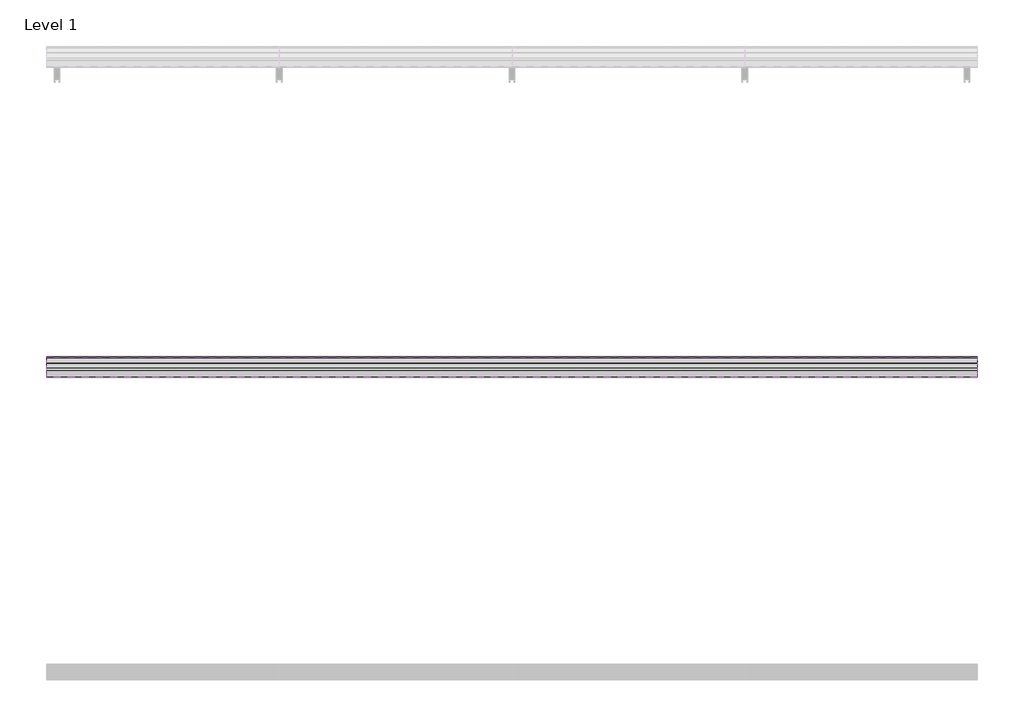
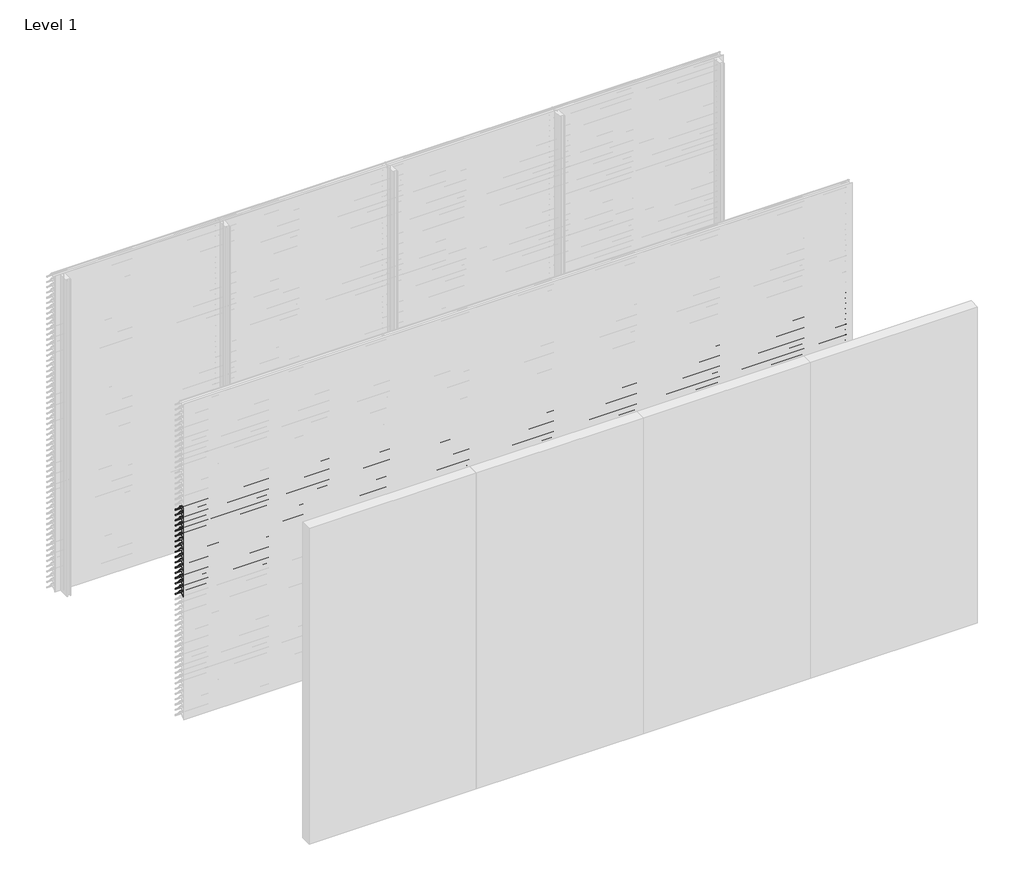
# One storey, part 107 of 173: 17 proxies.
"""IFC4 building model written with IfcOpenShell, lengths in millimetres."""

from ifc_helpers import new_model, si_unit, point, frame, frame_2d, origin, place, context, project, spatial, polyline, circle_curve, trimmed, segment, composite_curve, outline, extrude, element, save

model = new_model("IFC4")

# Units and contexts
model_context = context("Model", 3, world=origin())
ifc_project = project(units=[si_unit("LENGTHUNIT", "METRE", prefix="MILLI")], contexts=[model_context])

# Site, building, storey
site = spatial("IfcSite", under=ifc_project)
building = spatial("IfcBuilding", under=site)
storey = spatial("IfcBuildingStorey", under=building, Name="Level 1", Elevation=0.0)

# Proxies
placement = place(None, origin())
element("IfcBuildingElementProxy", 1, Name="Wall Sweeps", at=placement, inside=storey, context=model_context, shape_type="SweptSolid", body=[
    extrude(outline(composite_curve([segment(polyline([(-19998.0, 1959.1474905), (-19998.0, 1961.6227417)]), True, "CONTINUOUS"), segment(trimmed(circle_curve(frame_2d((-19951.2682172, 1916.2200208)), 65.1557103), [point((-19998.0, 1961.6227417))], [point((-19954.4014323, 1981.3003524))], False, "CARTESIAN"), True, "CONTINUOUS"), segment(polyline([(-19954.4014323, 1981.3003524), (-19934.8315836, 1981.3003524)]), True, "CONTINUOUS"), segment(trimmed(circle_curve(frame_2d((-19732.7329489, 2128.5533172)), 250.0545817), [point((-19934.8315836, 1981.3003524))], [point((-19941.4452143, 1990.8344583))], False, "CARTESIAN"), True, "CONTINUOUS"), segment(trimmed(circle_curve(frame_2d((-19953.2981792, 1985.1737835)), 13.1352966), [point((-19941.4452143, 1990.8344583))], [point((-19953.8171475, 1998.298824))], True, "CARTESIAN"), True, "CONTINUOUS"), segment(polyline([(-19953.8171475, 1998.298824), (-19953.8171475, 2000.0)]), True, "CONTINUOUS"), segment(trimmed(circle_curve(frame_2d((-19953.2981792, 1985.1737835)), 14.8352966), [point((-19953.8171475, 2000.0))], [point((-19939.9637661, 1991.6760487))], False, "CARTESIAN"), True, "CONTINUOUS"), segment(trimmed(circle_curve(frame_2d((-19732.7329489, 2128.5533172)), 248.3545817), [point((-19939.9637661, 1991.6760487))], [point((-19873.8787895, 1924.2059416))], True, "CARTESIAN"), True, "CONTINUOUS"), segment(trimmed(circle_curve(frame_2d((-19883.8147537, 1911.6649442)), 16.0), [point((-19873.8787895, 1924.2059416))], [point((-19867.8648347, 1910.4))], False, "CARTESIAN"), True, "CONTINUOUS"), segment(polyline([(-19867.8648347, 1910.4), (-19869.6712069, 1910.4)]), True, "CONTINUOUS"), segment(trimmed(circle_curve(frame_2d((-19883.8147537, 1911.6649442)), 14.2), [point((-19869.6712069, 1910.4))], [point((-19874.9518628, 1922.7594998))], True, "CARTESIAN"), True, "CONTINUOUS"), segment(trimmed(circle_curve(frame_2d((-19732.7329489, 2128.5533172)), 250.1545817), [point((-19874.9518628, 1922.7594998))], [point((-19933.7064024, 1979.6003524))], False, "CARTESIAN"), True, "CONTINUOUS"), segment(polyline([(-19933.7064024, 1979.6003524), (-19954.3602632, 1979.6003524)]), True, "CONTINUOUS"), segment(trimmed(circle_curve(frame_2d((-19951.2682172, 1916.2200208)), 63.4557103), [point((-19954.3602632, 1979.6003524))], [point((-19998.0, 1959.1474905))], True, "CARTESIAN"), True, "CONTINUOUS")], self_intersect=False)), frame((0.0, 0.0, 0.0), z_axis=(1.0, 0.0, 0.0), x_axis=(0.0, 1.0, 0.0)), (0.0, 0.0, 1.0), 6000.0),
])
element("IfcBuildingElementProxy", 2, Name="Wall Sweeps", at=placement, inside=storey, context=model_context, shape_type="SweptSolid", body=[
    extrude(outline(composite_curve([segment(polyline([(-19998.0, 1909.1474905), (-19998.0, 1911.6227417)]), True, "CONTINUOUS"), segment(trimmed(circle_curve(frame_2d((-19951.2682172, 1866.2200208)), 65.1557103), [point((-19998.0, 1911.6227417))], [point((-19954.4014323, 1931.3003524))], False, "CARTESIAN"), True, "CONTINUOUS"), segment(polyline([(-19954.4014323, 1931.3003524), (-19934.8315836, 1931.3003524)]), True, "CONTINUOUS"), segment(trimmed(circle_curve(frame_2d((-19732.7329489, 2078.5533172)), 250.0545817), [point((-19934.8315836, 1931.3003524))], [point((-19941.4452143, 1940.8344583))], False, "CARTESIAN"), True, "CONTINUOUS"), segment(trimmed(circle_curve(frame_2d((-19953.2981792, 1935.1737835)), 13.1352966), [point((-19941.4452143, 1940.8344583))], [point((-19953.8171475, 1948.298824))], True, "CARTESIAN"), True, "CONTINUOUS"), segment(polyline([(-19953.8171475, 1948.298824), (-19953.8171475, 1950.0)]), True, "CONTINUOUS"), segment(trimmed(circle_curve(frame_2d((-19953.2981792, 1935.1737835)), 14.8352966), [point((-19953.8171475, 1950.0))], [point((-19939.9637661, 1941.6760487))], False, "CARTESIAN"), True, "CONTINUOUS"), segment(trimmed(circle_curve(frame_2d((-19732.7329489, 2078.5533172)), 248.3545817), [point((-19939.9637661, 1941.6760487))], [point((-19873.8787895, 1874.2059416))], True, "CARTESIAN"), True, "CONTINUOUS"), segment(trimmed(circle_curve(frame_2d((-19883.8147537, 1861.6649442)), 16.0), [point((-19873.8787895, 1874.2059416))], [point((-19867.8648347, 1860.4))], False, "CARTESIAN"), True, "CONTINUOUS"), segment(polyline([(-19867.8648347, 1860.4), (-19869.6712069, 1860.4)]), True, "CONTINUOUS"), segment(trimmed(circle_curve(frame_2d((-19883.8147537, 1861.6649442)), 14.2), [point((-19869.6712069, 1860.4))], [point((-19874.9518628, 1872.7594998))], True, "CARTESIAN"), True, "CONTINUOUS"), segment(trimmed(circle_curve(frame_2d((-19732.7329489, 2078.5533172)), 250.1545817), [point((-19874.9518628, 1872.7594998))], [point((-19933.7064024, 1929.6003524))], False, "CARTESIAN"), True, "CONTINUOUS"), segment(polyline([(-19933.7064024, 1929.6003524), (-19954.3602632, 1929.6003524)]), True, "CONTINUOUS"), segment(trimmed(circle_curve(frame_2d((-19951.2682172, 1866.2200208)), 63.4557103), [point((-19954.3602632, 1929.6003524))], [point((-19998.0, 1909.1474905))], True, "CARTESIAN"), True, "CONTINUOUS")], self_intersect=False)), frame((0.0, 0.0, 0.0), z_axis=(1.0, 0.0, 0.0), x_axis=(0.0, 1.0, 0.0)), (0.0, 0.0, 1.0), 6000.0),
])
element("IfcBuildingElementProxy", 3, Name="Wall Sweeps", at=placement, inside=storey, context=model_context, shape_type="SweptSolid", body=[
    extrude(outline(composite_curve([segment(polyline([(-19998.0, 1859.1474905), (-19998.0, 1861.6227417)]), True, "CONTINUOUS"), segment(trimmed(circle_curve(frame_2d((-19951.2682172, 1816.2200208)), 65.1557103), [point((-19998.0, 1861.6227417))], [point((-19954.4014323, 1881.3003524))], False, "CARTESIAN"), True, "CONTINUOUS"), segment(polyline([(-19954.4014323, 1881.3003524), (-19934.8315836, 1881.3003524)]), True, "CONTINUOUS"), segment(trimmed(circle_curve(frame_2d((-19732.7329489, 2028.5533172)), 250.0545817), [point((-19934.8315836, 1881.3003524))], [point((-19941.4452143, 1890.8344583))], False, "CARTESIAN"), True, "CONTINUOUS"), segment(trimmed(circle_curve(frame_2d((-19953.2981792, 1885.1737835)), 13.1352966), [point((-19941.4452143, 1890.8344583))], [point((-19953.8171475, 1898.298824))], True, "CARTESIAN"), True, "CONTINUOUS"), segment(polyline([(-19953.8171475, 1898.298824), (-19953.8171475, 1900.0)]), True, "CONTINUOUS"), segment(trimmed(circle_curve(frame_2d((-19953.2981792, 1885.1737835)), 14.8352966), [point((-19953.8171475, 1900.0))], [point((-19939.9637661, 1891.6760487))], False, "CARTESIAN"), True, "CONTINUOUS"), segment(trimmed(circle_curve(frame_2d((-19732.7329489, 2028.5533172)), 248.3545817), [point((-19939.9637661, 1891.6760487))], [point((-19873.8787895, 1824.2059416))], True, "CARTESIAN"), True, "CONTINUOUS"), segment(trimmed(circle_curve(frame_2d((-19883.8147537, 1811.6649442)), 16.0), [point((-19873.8787895, 1824.2059416))], [point((-19867.8648347, 1810.4))], False, "CARTESIAN"), True, "CONTINUOUS"), segment(polyline([(-19867.8648347, 1810.4), (-19869.6712069, 1810.4)]), True, "CONTINUOUS"), segment(trimmed(circle_curve(frame_2d((-19883.8147537, 1811.6649442)), 14.2), [point((-19869.6712069, 1810.4))], [point((-19874.9518628, 1822.7594998))], True, "CARTESIAN"), True, "CONTINUOUS"), segment(trimmed(circle_curve(frame_2d((-19732.7329489, 2028.5533172)), 250.1545817), [point((-19874.9518628, 1822.7594998))], [point((-19933.7064024, 1879.6003524))], False, "CARTESIAN"), True, "CONTINUOUS"), segment(polyline([(-19933.7064024, 1879.6003524), (-19954.3602632, 1879.6003524)]), True, "CONTINUOUS"), segment(trimmed(circle_curve(frame_2d((-19951.2682172, 1816.2200208)), 63.4557103), [point((-19954.3602632, 1879.6003524))], [point((-19998.0, 1859.1474905))], True, "CARTESIAN"), True, "CONTINUOUS")], self_intersect=False)), frame((0.0, 0.0, 0.0), z_axis=(1.0, 0.0, 0.0), x_axis=(0.0, 1.0, 0.0)), (0.0, 0.0, 1.0), 6000.0),
])
element("IfcBuildingElementProxy", 4, Name="Wall Sweeps", at=placement, inside=storey, context=model_context, shape_type="SweptSolid", body=[
    extrude(outline(composite_curve([segment(polyline([(-19998.0, 1809.1474905), (-19998.0, 1811.6227417)]), True, "CONTINUOUS"), segment(trimmed(circle_curve(frame_2d((-19951.2682172, 1766.2200208)), 65.1557103), [point((-19998.0, 1811.6227417))], [point((-19954.4014323, 1831.3003524))], False, "CARTESIAN"), True, "CONTINUOUS"), segment(polyline([(-19954.4014323, 1831.3003524), (-19934.8315836, 1831.3003524)]), True, "CONTINUOUS"), segment(trimmed(circle_curve(frame_2d((-19732.7329489, 1978.5533172)), 250.0545817), [point((-19934.8315836, 1831.3003524))], [point((-19941.4452143, 1840.8344583))], False, "CARTESIAN"), True, "CONTINUOUS"), segment(trimmed(circle_curve(frame_2d((-19953.2981792, 1835.1737835)), 13.1352966), [point((-19941.4452143, 1840.8344583))], [point((-19953.8171475, 1848.298824))], True, "CARTESIAN"), True, "CONTINUOUS"), segment(polyline([(-19953.8171475, 1848.298824), (-19953.8171475, 1850.0)]), True, "CONTINUOUS"), segment(trimmed(circle_curve(frame_2d((-19953.2981792, 1835.1737835)), 14.8352966), [point((-19953.8171475, 1850.0))], [point((-19939.9637661, 1841.6760487))], False, "CARTESIAN"), True, "CONTINUOUS"), segment(trimmed(circle_curve(frame_2d((-19732.7329489, 1978.5533172)), 248.3545817), [point((-19939.9637661, 1841.6760487))], [point((-19873.8787895, 1774.2059416))], True, "CARTESIAN"), True, "CONTINUOUS"), segment(trimmed(circle_curve(frame_2d((-19883.8147537, 1761.6649442)), 16.0), [point((-19873.8787895, 1774.2059416))], [point((-19867.8648347, 1760.4))], False, "CARTESIAN"), True, "CONTINUOUS"), segment(polyline([(-19867.8648347, 1760.4), (-19869.6712069, 1760.4)]), True, "CONTINUOUS"), segment(trimmed(circle_curve(frame_2d((-19883.8147537, 1761.6649442)), 14.2), [point((-19869.6712069, 1760.4))], [point((-19874.9518628, 1772.7594998))], True, "CARTESIAN"), True, "CONTINUOUS"), segment(trimmed(circle_curve(frame_2d((-19732.7329489, 1978.5533172)), 250.1545817), [point((-19874.9518628, 1772.7594998))], [point((-19933.7064024, 1829.6003524))], False, "CARTESIAN"), True, "CONTINUOUS"), segment(polyline([(-19933.7064024, 1829.6003524), (-19954.3602632, 1829.6003524)]), True, "CONTINUOUS"), segment(trimmed(circle_curve(frame_2d((-19951.2682172, 1766.2200208)), 63.4557103), [point((-19954.3602632, 1829.6003524))], [point((-19998.0, 1809.1474905))], True, "CARTESIAN"), True, "CONTINUOUS")], self_intersect=False)), frame((0.0, 0.0, 0.0), z_axis=(1.0, 0.0, 0.0), x_axis=(0.0, 1.0, 0.0)), (0.0, 0.0, 1.0), 6000.0),
])
element("IfcBuildingElementProxy", 5, Name="Wall Sweeps", at=placement, inside=storey, context=model_context, shape_type="SweptSolid", body=[
    extrude(outline(composite_curve([segment(polyline([(-19998.0, 1759.1474905), (-19998.0, 1761.6227417)]), True, "CONTINUOUS"), segment(trimmed(circle_curve(frame_2d((-19951.2682172, 1716.2200208)), 65.1557103), [point((-19998.0, 1761.6227417))], [point((-19954.4014323, 1781.3003524))], False, "CARTESIAN"), True, "CONTINUOUS"), segment(polyline([(-19954.4014323, 1781.3003524), (-19934.8315836, 1781.3003524)]), True, "CONTINUOUS"), segment(trimmed(circle_curve(frame_2d((-19732.7329489, 1928.5533172)), 250.0545817), [point((-19934.8315836, 1781.3003524))], [point((-19941.4452143, 1790.8344583))], False, "CARTESIAN"), True, "CONTINUOUS"), segment(trimmed(circle_curve(frame_2d((-19953.2981792, 1785.1737835)), 13.1352966), [point((-19941.4452143, 1790.8344583))], [point((-19953.8171475, 1798.298824))], True, "CARTESIAN"), True, "CONTINUOUS"), segment(polyline([(-19953.8171475, 1798.298824), (-19953.8171475, 1800.0)]), True, "CONTINUOUS"), segment(trimmed(circle_curve(frame_2d((-19953.2981792, 1785.1737835)), 14.8352966), [point((-19953.8171475, 1800.0))], [point((-19939.9637661, 1791.6760487))], False, "CARTESIAN"), True, "CONTINUOUS"), segment(trimmed(circle_curve(frame_2d((-19732.7329489, 1928.5533172)), 248.3545817), [point((-19939.9637661, 1791.6760487))], [point((-19873.8787895, 1724.2059416))], True, "CARTESIAN"), True, "CONTINUOUS"), segment(trimmed(circle_curve(frame_2d((-19883.8147537, 1711.6649442)), 16.0), [point((-19873.8787895, 1724.2059416))], [point((-19867.8648347, 1710.4))], False, "CARTESIAN"), True, "CONTINUOUS"), segment(polyline([(-19867.8648347, 1710.4), (-19869.6712069, 1710.4)]), True, "CONTINUOUS"), segment(trimmed(circle_curve(frame_2d((-19883.8147537, 1711.6649442)), 14.2), [point((-19869.6712069, 1710.4))], [point((-19874.9518628, 1722.7594998))], True, "CARTESIAN"), True, "CONTINUOUS"), segment(trimmed(circle_curve(frame_2d((-19732.7329489, 1928.5533172)), 250.1545817), [point((-19874.9518628, 1722.7594998))], [point((-19933.7064024, 1779.6003524))], False, "CARTESIAN"), True, "CONTINUOUS"), segment(polyline([(-19933.7064024, 1779.6003524), (-19954.3602632, 1779.6003524)]), True, "CONTINUOUS"), segment(trimmed(circle_curve(frame_2d((-19951.2682172, 1716.2200208)), 63.4557103), [point((-19954.3602632, 1779.6003524))], [point((-19998.0, 1759.1474905))], True, "CARTESIAN"), True, "CONTINUOUS")], self_intersect=False)), frame((0.0, 0.0, 0.0), z_axis=(1.0, 0.0, 0.0), x_axis=(0.0, 1.0, 0.0)), (0.0, 0.0, 1.0), 6000.0),
])
element("IfcBuildingElementProxy", 6, Name="Wall Sweeps", at=placement, inside=storey, context=model_context, shape_type="SweptSolid", body=[
    extrude(outline(composite_curve([segment(polyline([(-19998.0, 1709.1474905), (-19998.0, 1711.6227417)]), True, "CONTINUOUS"), segment(trimmed(circle_curve(frame_2d((-19951.2682172, 1666.2200208)), 65.1557103), [point((-19998.0, 1711.6227417))], [point((-19954.4014323, 1731.3003524))], False, "CARTESIAN"), True, "CONTINUOUS"), segment(polyline([(-19954.4014323, 1731.3003524), (-19934.8315836, 1731.3003524)]), True, "CONTINUOUS"), segment(trimmed(circle_curve(frame_2d((-19732.7329489, 1878.5533172)), 250.0545817), [point((-19934.8315836, 1731.3003524))], [point((-19941.4452143, 1740.8344583))], False, "CARTESIAN"), True, "CONTINUOUS"), segment(trimmed(circle_curve(frame_2d((-19953.2981792, 1735.1737835)), 13.1352966), [point((-19941.4452143, 1740.8344583))], [point((-19953.8171475, 1748.298824))], True, "CARTESIAN"), True, "CONTINUOUS"), segment(polyline([(-19953.8171475, 1748.298824), (-19953.8171475, 1750.0)]), True, "CONTINUOUS"), segment(trimmed(circle_curve(frame_2d((-19953.2981792, 1735.1737835)), 14.8352966), [point((-19953.8171475, 1750.0))], [point((-19939.9637661, 1741.6760487))], False, "CARTESIAN"), True, "CONTINUOUS"), segment(trimmed(circle_curve(frame_2d((-19732.7329489, 1878.5533172)), 248.3545817), [point((-19939.9637661, 1741.6760487))], [point((-19873.8787895, 1674.2059416))], True, "CARTESIAN"), True, "CONTINUOUS"), segment(trimmed(circle_curve(frame_2d((-19883.8147537, 1661.6649442)), 16.0), [point((-19873.8787895, 1674.2059416))], [point((-19867.8648347, 1660.4))], False, "CARTESIAN"), True, "CONTINUOUS"), segment(polyline([(-19867.8648347, 1660.4), (-19869.6712069, 1660.4)]), True, "CONTINUOUS"), segment(trimmed(circle_curve(frame_2d((-19883.8147537, 1661.6649442)), 14.2), [point((-19869.6712069, 1660.4))], [point((-19874.9518628, 1672.7594998))], True, "CARTESIAN"), True, "CONTINUOUS"), segment(trimmed(circle_curve(frame_2d((-19732.7329489, 1878.5533172)), 250.1545817), [point((-19874.9518628, 1672.7594998))], [point((-19933.7064024, 1729.6003524))], False, "CARTESIAN"), True, "CONTINUOUS"), segment(polyline([(-19933.7064024, 1729.6003524), (-19954.3602632, 1729.6003524)]), True, "CONTINUOUS"), segment(trimmed(circle_curve(frame_2d((-19951.2682172, 1666.2200208)), 63.4557103), [point((-19954.3602632, 1729.6003524))], [point((-19998.0, 1709.1474905))], True, "CARTESIAN"), True, "CONTINUOUS")], self_intersect=False)), frame((0.0, 0.0, 0.0), z_axis=(1.0, 0.0, 0.0), x_axis=(0.0, 1.0, 0.0)), (0.0, 0.0, 1.0), 6000.0),
])
element("IfcBuildingElementProxy", 7, Name="Wall Sweeps", at=placement, inside=storey, context=model_context, shape_type="SweptSolid", body=[
    extrude(outline(composite_curve([segment(polyline([(-19998.0, 1659.1474905), (-19998.0, 1661.6227417)]), True, "CONTINUOUS"), segment(trimmed(circle_curve(frame_2d((-19951.2682172, 1616.2200208)), 65.1557103), [point((-19998.0, 1661.6227417))], [point((-19954.4014323, 1681.3003524))], False, "CARTESIAN"), True, "CONTINUOUS"), segment(polyline([(-19954.4014323, 1681.3003524), (-19934.8315836, 1681.3003524)]), True, "CONTINUOUS"), segment(trimmed(circle_curve(frame_2d((-19732.7329489, 1828.5533172)), 250.0545817), [point((-19934.8315836, 1681.3003524))], [point((-19941.4452143, 1690.8344583))], False, "CARTESIAN"), True, "CONTINUOUS"), segment(trimmed(circle_curve(frame_2d((-19953.2981792, 1685.1737835)), 13.1352966), [point((-19941.4452143, 1690.8344583))], [point((-19953.8171475, 1698.298824))], True, "CARTESIAN"), True, "CONTINUOUS"), segment(polyline([(-19953.8171475, 1698.298824), (-19953.8171475, 1700.0)]), True, "CONTINUOUS"), segment(trimmed(circle_curve(frame_2d((-19953.2981792, 1685.1737835)), 14.8352966), [point((-19953.8171475, 1700.0))], [point((-19939.9637661, 1691.6760487))], False, "CARTESIAN"), True, "CONTINUOUS"), segment(trimmed(circle_curve(frame_2d((-19732.7329489, 1828.5533172)), 248.3545817), [point((-19939.9637661, 1691.6760487))], [point((-19873.8787895, 1624.2059416))], True, "CARTESIAN"), True, "CONTINUOUS"), segment(trimmed(circle_curve(frame_2d((-19883.8147537, 1611.6649442)), 16.0), [point((-19873.8787895, 1624.2059416))], [point((-19867.8648347, 1610.4))], False, "CARTESIAN"), True, "CONTINUOUS"), segment(polyline([(-19867.8648347, 1610.4), (-19869.6712069, 1610.4)]), True, "CONTINUOUS"), segment(trimmed(circle_curve(frame_2d((-19883.8147537, 1611.6649442)), 14.2), [point((-19869.6712069, 1610.4))], [point((-19874.9518628, 1622.7594998))], True, "CARTESIAN"), True, "CONTINUOUS"), segment(trimmed(circle_curve(frame_2d((-19732.7329489, 1828.5533172)), 250.1545817), [point((-19874.9518628, 1622.7594998))], [point((-19933.7064024, 1679.6003524))], False, "CARTESIAN"), True, "CONTINUOUS"), segment(polyline([(-19933.7064024, 1679.6003524), (-19954.3602632, 1679.6003524)]), True, "CONTINUOUS"), segment(trimmed(circle_curve(frame_2d((-19951.2682172, 1616.2200208)), 63.4557103), [point((-19954.3602632, 1679.6003524))], [point((-19998.0, 1659.1474905))], True, "CARTESIAN"), True, "CONTINUOUS")], self_intersect=False)), frame((0.0, 0.0, 0.0), z_axis=(1.0, 0.0, 0.0), x_axis=(0.0, 1.0, 0.0)), (0.0, 0.0, 1.0), 6000.0),
])
element("IfcBuildingElementProxy", 8, Name="Wall Sweeps", at=placement, inside=storey, context=model_context, shape_type="SweptSolid", body=[
    extrude(outline(composite_curve([segment(polyline([(-19998.0, 1609.1474905), (-19998.0, 1611.6227417)]), True, "CONTINUOUS"), segment(trimmed(circle_curve(frame_2d((-19951.2682172, 1566.2200208)), 65.1557103), [point((-19998.0, 1611.6227417))], [point((-19954.4014323, 1631.3003524))], False, "CARTESIAN"), True, "CONTINUOUS"), segment(polyline([(-19954.4014323, 1631.3003524), (-19934.8315836, 1631.3003524)]), True, "CONTINUOUS"), segment(trimmed(circle_curve(frame_2d((-19732.7329489, 1778.5533172)), 250.0545817), [point((-19934.8315836, 1631.3003524))], [point((-19941.4452143, 1640.8344583))], False, "CARTESIAN"), True, "CONTINUOUS"), segment(trimmed(circle_curve(frame_2d((-19953.2981792, 1635.1737835)), 13.1352966), [point((-19941.4452143, 1640.8344583))], [point((-19953.8171475, 1648.298824))], True, "CARTESIAN"), True, "CONTINUOUS"), segment(polyline([(-19953.8171475, 1648.298824), (-19953.8171475, 1650.0)]), True, "CONTINUOUS"), segment(trimmed(circle_curve(frame_2d((-19953.2981792, 1635.1737835)), 14.8352966), [point((-19953.8171475, 1650.0))], [point((-19939.9637661, 1641.6760487))], False, "CARTESIAN"), True, "CONTINUOUS"), segment(trimmed(circle_curve(frame_2d((-19732.7329489, 1778.5533172)), 248.3545817), [point((-19939.9637661, 1641.6760487))], [point((-19873.8787895, 1574.2059416))], True, "CARTESIAN"), True, "CONTINUOUS"), segment(trimmed(circle_curve(frame_2d((-19883.8147537, 1561.6649442)), 16.0), [point((-19873.8787895, 1574.2059416))], [point((-19867.8648347, 1560.4))], False, "CARTESIAN"), True, "CONTINUOUS"), segment(polyline([(-19867.8648347, 1560.4), (-19869.6712069, 1560.4)]), True, "CONTINUOUS"), segment(trimmed(circle_curve(frame_2d((-19883.8147537, 1561.6649442)), 14.2), [point((-19869.6712069, 1560.4))], [point((-19874.9518628, 1572.7594998))], True, "CARTESIAN"), True, "CONTINUOUS"), segment(trimmed(circle_curve(frame_2d((-19732.7329489, 1778.5533172)), 250.1545817), [point((-19874.9518628, 1572.7594998))], [point((-19933.7064024, 1629.6003524))], False, "CARTESIAN"), True, "CONTINUOUS"), segment(polyline([(-19933.7064024, 1629.6003524), (-19954.3602632, 1629.6003524)]), True, "CONTINUOUS"), segment(trimmed(circle_curve(frame_2d((-19951.2682172, 1566.2200208)), 63.4557103), [point((-19954.3602632, 1629.6003524))], [point((-19998.0, 1609.1474905))], True, "CARTESIAN"), True, "CONTINUOUS")], self_intersect=False)), frame((0.0, 0.0, 0.0), z_axis=(1.0, 0.0, 0.0), x_axis=(0.0, 1.0, 0.0)), (0.0, 0.0, 1.0), 6000.0),
])
element("IfcBuildingElementProxy", 9, Name="Wall Sweeps", at=placement, inside=storey, context=model_context, shape_type="SweptSolid", body=[
    extrude(outline(composite_curve([segment(polyline([(-19998.0, 1559.1474905), (-19998.0, 1561.6227417)]), True, "CONTINUOUS"), segment(trimmed(circle_curve(frame_2d((-19951.2682172, 1516.2200208)), 65.1557103), [point((-19998.0, 1561.6227417))], [point((-19954.4014323, 1581.3003524))], False, "CARTESIAN"), True, "CONTINUOUS"), segment(polyline([(-19954.4014323, 1581.3003524), (-19934.8315836, 1581.3003524)]), True, "CONTINUOUS"), segment(trimmed(circle_curve(frame_2d((-19732.7329489, 1728.5533172)), 250.0545817), [point((-19934.8315836, 1581.3003524))], [point((-19941.4452143, 1590.8344583))], False, "CARTESIAN"), True, "CONTINUOUS"), segment(trimmed(circle_curve(frame_2d((-19953.2981792, 1585.1737835)), 13.1352966), [point((-19941.4452143, 1590.8344583))], [point((-19953.8171475, 1598.298824))], True, "CARTESIAN"), True, "CONTINUOUS"), segment(polyline([(-19953.8171475, 1598.298824), (-19953.8171475, 1600.0)]), True, "CONTINUOUS"), segment(trimmed(circle_curve(frame_2d((-19953.2981792, 1585.1737835)), 14.8352966), [point((-19953.8171475, 1600.0))], [point((-19939.9637661, 1591.6760487))], False, "CARTESIAN"), True, "CONTINUOUS"), segment(trimmed(circle_curve(frame_2d((-19732.7329489, 1728.5533172)), 248.3545817), [point((-19939.9637661, 1591.6760487))], [point((-19873.8787895, 1524.2059416))], True, "CARTESIAN"), True, "CONTINUOUS"), segment(trimmed(circle_curve(frame_2d((-19883.8147537, 1511.6649442)), 16.0), [point((-19873.8787895, 1524.2059416))], [point((-19867.8648347, 1510.4))], False, "CARTESIAN"), True, "CONTINUOUS"), segment(polyline([(-19867.8648347, 1510.4), (-19869.6712069, 1510.4)]), True, "CONTINUOUS"), segment(trimmed(circle_curve(frame_2d((-19883.8147537, 1511.6649442)), 14.2), [point((-19869.6712069, 1510.4))], [point((-19874.9518628, 1522.7594998))], True, "CARTESIAN"), True, "CONTINUOUS"), segment(trimmed(circle_curve(frame_2d((-19732.7329489, 1728.5533172)), 250.1545817), [point((-19874.9518628, 1522.7594998))], [point((-19933.7064024, 1579.6003524))], False, "CARTESIAN"), True, "CONTINUOUS"), segment(polyline([(-19933.7064024, 1579.6003524), (-19954.3602632, 1579.6003524)]), True, "CONTINUOUS"), segment(trimmed(circle_curve(frame_2d((-19951.2682172, 1516.2200208)), 63.4557103), [point((-19954.3602632, 1579.6003524))], [point((-19998.0, 1559.1474905))], True, "CARTESIAN"), True, "CONTINUOUS")], self_intersect=False)), frame((0.0, 0.0, 0.0), z_axis=(1.0, 0.0, 0.0), x_axis=(0.0, 1.0, 0.0)), (0.0, 0.0, 1.0), 6000.0),
])
element("IfcBuildingElementProxy", 10, Name="Wall Sweeps", at=placement, inside=storey, context=model_context, shape_type="SweptSolid", body=[
    extrude(outline(composite_curve([segment(polyline([(-19998.0, 1509.1474905), (-19998.0, 1511.6227417)]), True, "CONTINUOUS"), segment(trimmed(circle_curve(frame_2d((-19951.2682172, 1466.2200208)), 65.1557103), [point((-19998.0, 1511.6227417))], [point((-19954.4014323, 1531.3003524))], False, "CARTESIAN"), True, "CONTINUOUS"), segment(polyline([(-19954.4014323, 1531.3003524), (-19934.8315836, 1531.3003524)]), True, "CONTINUOUS"), segment(trimmed(circle_curve(frame_2d((-19732.7329489, 1678.5533172)), 250.0545817), [point((-19934.8315836, 1531.3003524))], [point((-19941.4452143, 1540.8344583))], False, "CARTESIAN"), True, "CONTINUOUS"), segment(trimmed(circle_curve(frame_2d((-19953.2981792, 1535.1737835)), 13.1352966), [point((-19941.4452143, 1540.8344583))], [point((-19953.8171475, 1548.298824))], True, "CARTESIAN"), True, "CONTINUOUS"), segment(polyline([(-19953.8171475, 1548.298824), (-19953.8171475, 1550.0)]), True, "CONTINUOUS"), segment(trimmed(circle_curve(frame_2d((-19953.2981792, 1535.1737835)), 14.8352966), [point((-19953.8171475, 1550.0))], [point((-19939.9637661, 1541.6760487))], False, "CARTESIAN"), True, "CONTINUOUS"), segment(trimmed(circle_curve(frame_2d((-19732.7329489, 1678.5533172)), 248.3545817), [point((-19939.9637661, 1541.6760487))], [point((-19873.8787895, 1474.2059416))], True, "CARTESIAN"), True, "CONTINUOUS"), segment(trimmed(circle_curve(frame_2d((-19883.8147537, 1461.6649442)), 16.0), [point((-19873.8787895, 1474.2059416))], [point((-19867.8648347, 1460.4))], False, "CARTESIAN"), True, "CONTINUOUS"), segment(polyline([(-19867.8648347, 1460.4), (-19869.6712069, 1460.4)]), True, "CONTINUOUS"), segment(trimmed(circle_curve(frame_2d((-19883.8147537, 1461.6649442)), 14.2), [point((-19869.6712069, 1460.4))], [point((-19874.9518628, 1472.7594998))], True, "CARTESIAN"), True, "CONTINUOUS"), segment(trimmed(circle_curve(frame_2d((-19732.7329489, 1678.5533172)), 250.1545817), [point((-19874.9518628, 1472.7594998))], [point((-19933.7064024, 1529.6003524))], False, "CARTESIAN"), True, "CONTINUOUS"), segment(polyline([(-19933.7064024, 1529.6003524), (-19954.3602632, 1529.6003524)]), True, "CONTINUOUS"), segment(trimmed(circle_curve(frame_2d((-19951.2682172, 1466.2200208)), 63.4557103), [point((-19954.3602632, 1529.6003524))], [point((-19998.0, 1509.1474905))], True, "CARTESIAN"), True, "CONTINUOUS")], self_intersect=False)), frame((0.0, 0.0, 0.0), z_axis=(1.0, 0.0, 0.0), x_axis=(0.0, 1.0, 0.0)), (0.0, 0.0, 1.0), 6000.0),
])
element("IfcBuildingElementProxy", 11, Name="Wall Sweeps", at=placement, inside=storey, context=model_context, shape_type="SweptSolid", body=[
    extrude(outline(composite_curve([segment(polyline([(-19998.0, 1459.1474905), (-19998.0, 1461.6227417)]), True, "CONTINUOUS"), segment(trimmed(circle_curve(frame_2d((-19951.2682172, 1416.2200208)), 65.1557103), [point((-19998.0, 1461.6227417))], [point((-19954.4014323, 1481.3003524))], False, "CARTESIAN"), True, "CONTINUOUS"), segment(polyline([(-19954.4014323, 1481.3003524), (-19934.8315836, 1481.3003524)]), True, "CONTINUOUS"), segment(trimmed(circle_curve(frame_2d((-19732.7329489, 1628.5533172)), 250.0545817), [point((-19934.8315836, 1481.3003524))], [point((-19941.4452143, 1490.8344583))], False, "CARTESIAN"), True, "CONTINUOUS"), segment(trimmed(circle_curve(frame_2d((-19953.2981792, 1485.1737835)), 13.1352966), [point((-19941.4452143, 1490.8344583))], [point((-19953.8171475, 1498.298824))], True, "CARTESIAN"), True, "CONTINUOUS"), segment(polyline([(-19953.8171475, 1498.298824), (-19953.8171475, 1500.0)]), True, "CONTINUOUS"), segment(trimmed(circle_curve(frame_2d((-19953.2981792, 1485.1737835)), 14.8352966), [point((-19953.8171475, 1500.0))], [point((-19939.9637661, 1491.6760487))], False, "CARTESIAN"), True, "CONTINUOUS"), segment(trimmed(circle_curve(frame_2d((-19732.7329489, 1628.5533172)), 248.3545817), [point((-19939.9637661, 1491.6760487))], [point((-19873.8787895, 1424.2059416))], True, "CARTESIAN"), True, "CONTINUOUS"), segment(trimmed(circle_curve(frame_2d((-19883.8147537, 1411.6649442)), 16.0), [point((-19873.8787895, 1424.2059416))], [point((-19867.8648347, 1410.4))], False, "CARTESIAN"), True, "CONTINUOUS"), segment(polyline([(-19867.8648347, 1410.4), (-19869.6712069, 1410.4)]), True, "CONTINUOUS"), segment(trimmed(circle_curve(frame_2d((-19883.8147537, 1411.6649442)), 14.2), [point((-19869.6712069, 1410.4))], [point((-19874.9518628, 1422.7594998))], True, "CARTESIAN"), True, "CONTINUOUS"), segment(trimmed(circle_curve(frame_2d((-19732.7329489, 1628.5533172)), 250.1545817), [point((-19874.9518628, 1422.7594998))], [point((-19933.7064024, 1479.6003524))], False, "CARTESIAN"), True, "CONTINUOUS"), segment(polyline([(-19933.7064024, 1479.6003524), (-19954.3602632, 1479.6003524)]), True, "CONTINUOUS"), segment(trimmed(circle_curve(frame_2d((-19951.2682172, 1416.2200208)), 63.4557103), [point((-19954.3602632, 1479.6003524))], [point((-19998.0, 1459.1474905))], True, "CARTESIAN"), True, "CONTINUOUS")], self_intersect=False)), frame((0.0, 0.0, 0.0), z_axis=(1.0, 0.0, 0.0), x_axis=(0.0, 1.0, 0.0)), (0.0, 0.0, 1.0), 6000.0),
])
element("IfcBuildingElementProxy", 12, Name="Wall Sweeps", at=placement, inside=storey, context=model_context, shape_type="SweptSolid", body=[
    extrude(outline(composite_curve([segment(polyline([(-19998.0, 1409.1474905), (-19998.0, 1411.6227417)]), True, "CONTINUOUS"), segment(trimmed(circle_curve(frame_2d((-19951.2682172, 1366.2200208)), 65.1557103), [point((-19998.0, 1411.6227417))], [point((-19954.4014323, 1431.3003524))], False, "CARTESIAN"), True, "CONTINUOUS"), segment(polyline([(-19954.4014323, 1431.3003524), (-19934.8315836, 1431.3003524)]), True, "CONTINUOUS"), segment(trimmed(circle_curve(frame_2d((-19732.7329489, 1578.5533172)), 250.0545817), [point((-19934.8315836, 1431.3003524))], [point((-19941.4452143, 1440.8344583))], False, "CARTESIAN"), True, "CONTINUOUS"), segment(trimmed(circle_curve(frame_2d((-19953.2981792, 1435.1737835)), 13.1352966), [point((-19941.4452143, 1440.8344583))], [point((-19953.8171475, 1448.298824))], True, "CARTESIAN"), True, "CONTINUOUS"), segment(polyline([(-19953.8171475, 1448.298824), (-19953.8171475, 1450.0)]), True, "CONTINUOUS"), segment(trimmed(circle_curve(frame_2d((-19953.2981792, 1435.1737835)), 14.8352966), [point((-19953.8171475, 1450.0))], [point((-19939.9637661, 1441.6760487))], False, "CARTESIAN"), True, "CONTINUOUS"), segment(trimmed(circle_curve(frame_2d((-19732.7329489, 1578.5533172)), 248.3545817), [point((-19939.9637661, 1441.6760487))], [point((-19873.8787895, 1374.2059416))], True, "CARTESIAN"), True, "CONTINUOUS"), segment(trimmed(circle_curve(frame_2d((-19883.8147537, 1361.6649442)), 16.0), [point((-19873.8787895, 1374.2059416))], [point((-19867.8648347, 1360.4))], False, "CARTESIAN"), True, "CONTINUOUS"), segment(polyline([(-19867.8648347, 1360.4), (-19869.6712069, 1360.4)]), True, "CONTINUOUS"), segment(trimmed(circle_curve(frame_2d((-19883.8147537, 1361.6649442)), 14.2), [point((-19869.6712069, 1360.4))], [point((-19874.9518628, 1372.7594998))], True, "CARTESIAN"), True, "CONTINUOUS"), segment(trimmed(circle_curve(frame_2d((-19732.7329489, 1578.5533172)), 250.1545817), [point((-19874.9518628, 1372.7594998))], [point((-19933.7064024, 1429.6003524))], False, "CARTESIAN"), True, "CONTINUOUS"), segment(polyline([(-19933.7064024, 1429.6003524), (-19954.3602632, 1429.6003524)]), True, "CONTINUOUS"), segment(trimmed(circle_curve(frame_2d((-19951.2682172, 1366.2200208)), 63.4557103), [point((-19954.3602632, 1429.6003524))], [point((-19998.0, 1409.1474905))], True, "CARTESIAN"), True, "CONTINUOUS")], self_intersect=False)), frame((0.0, 0.0, 0.0), z_axis=(1.0, 0.0, 0.0), x_axis=(0.0, 1.0, 0.0)), (0.0, 0.0, 1.0), 6000.0),
])
element("IfcBuildingElementProxy", 13, Name="Wall Sweeps", at=placement, inside=storey, context=model_context, shape_type="SweptSolid", body=[
    extrude(outline(composite_curve([segment(polyline([(-19998.0, 1359.1474905), (-19998.0, 1361.6227417)]), True, "CONTINUOUS"), segment(trimmed(circle_curve(frame_2d((-19951.2682172, 1316.2200208)), 65.1557103), [point((-19998.0, 1361.6227417))], [point((-19954.4014323, 1381.3003524))], False, "CARTESIAN"), True, "CONTINUOUS"), segment(polyline([(-19954.4014323, 1381.3003524), (-19934.8315836, 1381.3003524)]), True, "CONTINUOUS"), segment(trimmed(circle_curve(frame_2d((-19732.7329489, 1528.5533172)), 250.0545817), [point((-19934.8315836, 1381.3003524))], [point((-19941.4452143, 1390.8344583))], False, "CARTESIAN"), True, "CONTINUOUS"), segment(trimmed(circle_curve(frame_2d((-19953.2981792, 1385.1737835)), 13.1352966), [point((-19941.4452143, 1390.8344583))], [point((-19953.8171475, 1398.298824))], True, "CARTESIAN"), True, "CONTINUOUS"), segment(polyline([(-19953.8171475, 1398.298824), (-19953.8171475, 1400.0)]), True, "CONTINUOUS"), segment(trimmed(circle_curve(frame_2d((-19953.2981792, 1385.1737835)), 14.8352966), [point((-19953.8171475, 1400.0))], [point((-19939.9637661, 1391.6760487))], False, "CARTESIAN"), True, "CONTINUOUS"), segment(trimmed(circle_curve(frame_2d((-19732.7329489, 1528.5533172)), 248.3545817), [point((-19939.9637661, 1391.6760487))], [point((-19873.8787895, 1324.2059416))], True, "CARTESIAN"), True, "CONTINUOUS"), segment(trimmed(circle_curve(frame_2d((-19883.8147537, 1311.6649442)), 16.0), [point((-19873.8787895, 1324.2059416))], [point((-19867.8648347, 1310.4))], False, "CARTESIAN"), True, "CONTINUOUS"), segment(polyline([(-19867.8648347, 1310.4), (-19869.6712069, 1310.4)]), True, "CONTINUOUS"), segment(trimmed(circle_curve(frame_2d((-19883.8147537, 1311.6649442)), 14.2), [point((-19869.6712069, 1310.4))], [point((-19874.9518628, 1322.7594998))], True, "CARTESIAN"), True, "CONTINUOUS"), segment(trimmed(circle_curve(frame_2d((-19732.7329489, 1528.5533172)), 250.1545817), [point((-19874.9518628, 1322.7594998))], [point((-19933.7064024, 1379.6003524))], False, "CARTESIAN"), True, "CONTINUOUS"), segment(polyline([(-19933.7064024, 1379.6003524), (-19954.3602632, 1379.6003524)]), True, "CONTINUOUS"), segment(trimmed(circle_curve(frame_2d((-19951.2682172, 1316.2200208)), 63.4557103), [point((-19954.3602632, 1379.6003524))], [point((-19998.0, 1359.1474905))], True, "CARTESIAN"), True, "CONTINUOUS")], self_intersect=False)), frame((0.0, 0.0, 0.0), z_axis=(1.0, 0.0, 0.0), x_axis=(0.0, 1.0, 0.0)), (0.0, 0.0, 1.0), 6000.0),
])
element("IfcBuildingElementProxy", 14, Name="Wall Sweeps", at=placement, inside=storey, context=model_context, shape_type="SweptSolid", body=[
    extrude(outline(composite_curve([segment(polyline([(-19998.0, 1309.1474905), (-19998.0, 1311.6227417)]), True, "CONTINUOUS"), segment(trimmed(circle_curve(frame_2d((-19951.2682172, 1266.2200208)), 65.1557103), [point((-19998.0, 1311.6227417))], [point((-19954.4014323, 1331.3003524))], False, "CARTESIAN"), True, "CONTINUOUS"), segment(polyline([(-19954.4014323, 1331.3003524), (-19934.8315836, 1331.3003524)]), True, "CONTINUOUS"), segment(trimmed(circle_curve(frame_2d((-19732.7329489, 1478.5533172)), 250.0545817), [point((-19934.8315836, 1331.3003524))], [point((-19941.4452143, 1340.8344583))], False, "CARTESIAN"), True, "CONTINUOUS"), segment(trimmed(circle_curve(frame_2d((-19953.2981792, 1335.1737835)), 13.1352966), [point((-19941.4452143, 1340.8344583))], [point((-19953.8171475, 1348.298824))], True, "CARTESIAN"), True, "CONTINUOUS"), segment(polyline([(-19953.8171475, 1348.298824), (-19953.8171475, 1350.0)]), True, "CONTINUOUS"), segment(trimmed(circle_curve(frame_2d((-19953.2981792, 1335.1737835)), 14.8352966), [point((-19953.8171475, 1350.0))], [point((-19939.9637661, 1341.6760487))], False, "CARTESIAN"), True, "CONTINUOUS"), segment(trimmed(circle_curve(frame_2d((-19732.7329489, 1478.5533172)), 248.3545817), [point((-19939.9637661, 1341.6760487))], [point((-19873.8787895, 1274.2059416))], True, "CARTESIAN"), True, "CONTINUOUS"), segment(trimmed(circle_curve(frame_2d((-19883.8147537, 1261.6649442)), 16.0), [point((-19873.8787895, 1274.2059416))], [point((-19867.8648347, 1260.4))], False, "CARTESIAN"), True, "CONTINUOUS"), segment(polyline([(-19867.8648347, 1260.4), (-19869.6712069, 1260.4)]), True, "CONTINUOUS"), segment(trimmed(circle_curve(frame_2d((-19883.8147537, 1261.6649442)), 14.2), [point((-19869.6712069, 1260.4))], [point((-19874.9518628, 1272.7594998))], True, "CARTESIAN"), True, "CONTINUOUS"), segment(trimmed(circle_curve(frame_2d((-19732.7329489, 1478.5533172)), 250.1545817), [point((-19874.9518628, 1272.7594998))], [point((-19933.7064024, 1329.6003524))], False, "CARTESIAN"), True, "CONTINUOUS"), segment(polyline([(-19933.7064024, 1329.6003524), (-19954.3602632, 1329.6003524)]), True, "CONTINUOUS"), segment(trimmed(circle_curve(frame_2d((-19951.2682172, 1266.2200208)), 63.4557103), [point((-19954.3602632, 1329.6003524))], [point((-19998.0, 1309.1474905))], True, "CARTESIAN"), True, "CONTINUOUS")], self_intersect=False)), frame((0.0, 0.0, 0.0), z_axis=(1.0, 0.0, 0.0), x_axis=(0.0, 1.0, 0.0)), (0.0, 0.0, 1.0), 6000.0),
])
element("IfcBuildingElementProxy", 15, Name="Wall Sweeps", at=placement, inside=storey, context=model_context, shape_type="SweptSolid", body=[
    extrude(outline(composite_curve([segment(polyline([(-19998.0, 1259.1474905), (-19998.0, 1261.6227417)]), True, "CONTINUOUS"), segment(trimmed(circle_curve(frame_2d((-19951.2682172, 1216.2200208)), 65.1557103), [point((-19998.0, 1261.6227417))], [point((-19954.4014323, 1281.3003524))], False, "CARTESIAN"), True, "CONTINUOUS"), segment(polyline([(-19954.4014323, 1281.3003524), (-19934.8315836, 1281.3003524)]), True, "CONTINUOUS"), segment(trimmed(circle_curve(frame_2d((-19732.7329489, 1428.5533172)), 250.0545817), [point((-19934.8315836, 1281.3003524))], [point((-19941.4452143, 1290.8344583))], False, "CARTESIAN"), True, "CONTINUOUS"), segment(trimmed(circle_curve(frame_2d((-19953.2981792, 1285.1737835)), 13.1352966), [point((-19941.4452143, 1290.8344583))], [point((-19953.8171475, 1298.298824))], True, "CARTESIAN"), True, "CONTINUOUS"), segment(polyline([(-19953.8171475, 1298.298824), (-19953.8171475, 1300.0)]), True, "CONTINUOUS"), segment(trimmed(circle_curve(frame_2d((-19953.2981792, 1285.1737835)), 14.8352966), [point((-19953.8171475, 1300.0))], [point((-19939.9637661, 1291.6760487))], False, "CARTESIAN"), True, "CONTINUOUS"), segment(trimmed(circle_curve(frame_2d((-19732.7329489, 1428.5533172)), 248.3545817), [point((-19939.9637661, 1291.6760487))], [point((-19873.8787895, 1224.2059416))], True, "CARTESIAN"), True, "CONTINUOUS"), segment(trimmed(circle_curve(frame_2d((-19883.8147537, 1211.6649442)), 16.0), [point((-19873.8787895, 1224.2059416))], [point((-19867.8648347, 1210.4))], False, "CARTESIAN"), True, "CONTINUOUS"), segment(polyline([(-19867.8648347, 1210.4), (-19869.6712069, 1210.4)]), True, "CONTINUOUS"), segment(trimmed(circle_curve(frame_2d((-19883.8147537, 1211.6649442)), 14.2), [point((-19869.6712069, 1210.4))], [point((-19874.9518628, 1222.7594998))], True, "CARTESIAN"), True, "CONTINUOUS"), segment(trimmed(circle_curve(frame_2d((-19732.7329489, 1428.5533172)), 250.1545817), [point((-19874.9518628, 1222.7594998))], [point((-19933.7064024, 1279.6003524))], False, "CARTESIAN"), True, "CONTINUOUS"), segment(polyline([(-19933.7064024, 1279.6003524), (-19954.3602632, 1279.6003524)]), True, "CONTINUOUS"), segment(trimmed(circle_curve(frame_2d((-19951.2682172, 1216.2200208)), 63.4557103), [point((-19954.3602632, 1279.6003524))], [point((-19998.0, 1259.1474905))], True, "CARTESIAN"), True, "CONTINUOUS")], self_intersect=False)), frame((0.0, 0.0, 0.0), z_axis=(1.0, 0.0, 0.0), x_axis=(0.0, 1.0, 0.0)), (0.0, 0.0, 1.0), 6000.0),
])
element("IfcBuildingElementProxy", 16, Name="Wall Sweeps", at=placement, inside=storey, context=model_context, shape_type="SweptSolid", body=[
    extrude(outline(composite_curve([segment(polyline([(-19998.0, 1209.1474905), (-19998.0, 1211.6227417)]), True, "CONTINUOUS"), segment(trimmed(circle_curve(frame_2d((-19951.2682172, 1166.2200208)), 65.1557103), [point((-19998.0, 1211.6227417))], [point((-19954.4014323, 1231.3003524))], False, "CARTESIAN"), True, "CONTINUOUS"), segment(polyline([(-19954.4014323, 1231.3003524), (-19934.8315836, 1231.3003524)]), True, "CONTINUOUS"), segment(trimmed(circle_curve(frame_2d((-19732.7329489, 1378.5533172)), 250.0545817), [point((-19934.8315836, 1231.3003524))], [point((-19941.4452143, 1240.8344583))], False, "CARTESIAN"), True, "CONTINUOUS"), segment(trimmed(circle_curve(frame_2d((-19953.2981792, 1235.1737835)), 13.1352966), [point((-19941.4452143, 1240.8344583))], [point((-19953.8171475, 1248.298824))], True, "CARTESIAN"), True, "CONTINUOUS"), segment(polyline([(-19953.8171475, 1248.298824), (-19953.8171475, 1250.0)]), True, "CONTINUOUS"), segment(trimmed(circle_curve(frame_2d((-19953.2981792, 1235.1737835)), 14.8352966), [point((-19953.8171475, 1250.0))], [point((-19939.9637661, 1241.6760487))], False, "CARTESIAN"), True, "CONTINUOUS"), segment(trimmed(circle_curve(frame_2d((-19732.7329489, 1378.5533172)), 248.3545817), [point((-19939.9637661, 1241.6760487))], [point((-19873.8787895, 1174.2059416))], True, "CARTESIAN"), True, "CONTINUOUS"), segment(trimmed(circle_curve(frame_2d((-19883.8147537, 1161.6649442)), 16.0), [point((-19873.8787895, 1174.2059416))], [point((-19867.8648347, 1160.4))], False, "CARTESIAN"), True, "CONTINUOUS"), segment(polyline([(-19867.8648347, 1160.4), (-19869.6712069, 1160.4)]), True, "CONTINUOUS"), segment(trimmed(circle_curve(frame_2d((-19883.8147537, 1161.6649442)), 14.2), [point((-19869.6712069, 1160.4))], [point((-19874.9518628, 1172.7594998))], True, "CARTESIAN"), True, "CONTINUOUS"), segment(trimmed(circle_curve(frame_2d((-19732.7329489, 1378.5533172)), 250.1545817), [point((-19874.9518628, 1172.7594998))], [point((-19933.7064024, 1229.6003524))], False, "CARTESIAN"), True, "CONTINUOUS"), segment(polyline([(-19933.7064024, 1229.6003524), (-19954.3602632, 1229.6003524)]), True, "CONTINUOUS"), segment(trimmed(circle_curve(frame_2d((-19951.2682172, 1166.2200208)), 63.4557103), [point((-19954.3602632, 1229.6003524))], [point((-19998.0, 1209.1474905))], True, "CARTESIAN"), True, "CONTINUOUS")], self_intersect=False)), frame((0.0, 0.0, 0.0), z_axis=(1.0, 0.0, 0.0), x_axis=(0.0, 1.0, 0.0)), (0.0, 0.0, 1.0), 6000.0),
])
element("IfcBuildingElementProxy", 17, Name="Wall Sweeps", at=placement, inside=storey, context=model_context, shape_type="SweptSolid", body=[
    extrude(outline(composite_curve([segment(polyline([(-19998.0, 1159.1474905), (-19998.0, 1161.6227417)]), True, "CONTINUOUS"), segment(trimmed(circle_curve(frame_2d((-19951.2682172, 1116.2200208)), 65.1557103), [point((-19998.0, 1161.6227417))], [point((-19954.4014323, 1181.3003524))], False, "CARTESIAN"), True, "CONTINUOUS"), segment(polyline([(-19954.4014323, 1181.3003524), (-19934.8315836, 1181.3003524)]), True, "CONTINUOUS"), segment(trimmed(circle_curve(frame_2d((-19732.7329489, 1328.5533172)), 250.0545817), [point((-19934.8315836, 1181.3003524))], [point((-19941.4452143, 1190.8344583))], False, "CARTESIAN"), True, "CONTINUOUS"), segment(trimmed(circle_curve(frame_2d((-19953.2981792, 1185.1737835)), 13.1352966), [point((-19941.4452143, 1190.8344583))], [point((-19953.8171475, 1198.298824))], True, "CARTESIAN"), True, "CONTINUOUS"), segment(polyline([(-19953.8171475, 1198.298824), (-19953.8171475, 1200.0)]), True, "CONTINUOUS"), segment(trimmed(circle_curve(frame_2d((-19953.2981792, 1185.1737835)), 14.8352966), [point((-19953.8171475, 1200.0))], [point((-19939.9637661, 1191.6760487))], False, "CARTESIAN"), True, "CONTINUOUS"), segment(trimmed(circle_curve(frame_2d((-19732.7329489, 1328.5533172)), 248.3545817), [point((-19939.9637661, 1191.6760487))], [point((-19873.8787895, 1124.2059416))], True, "CARTESIAN"), True, "CONTINUOUS"), segment(trimmed(circle_curve(frame_2d((-19883.8147537, 1111.6649442)), 16.0), [point((-19873.8787895, 1124.2059416))], [point((-19867.8648347, 1110.4))], False, "CARTESIAN"), True, "CONTINUOUS"), segment(polyline([(-19867.8648347, 1110.4), (-19869.6712069, 1110.4)]), True, "CONTINUOUS"), segment(trimmed(circle_curve(frame_2d((-19883.8147537, 1111.6649442)), 14.2), [point((-19869.6712069, 1110.4))], [point((-19874.9518628, 1122.7594998))], True, "CARTESIAN"), True, "CONTINUOUS"), segment(trimmed(circle_curve(frame_2d((-19732.7329489, 1328.5533172)), 250.1545817), [point((-19874.9518628, 1122.7594998))], [point((-19933.7064024, 1179.6003524))], False, "CARTESIAN"), True, "CONTINUOUS"), segment(polyline([(-19933.7064024, 1179.6003524), (-19954.3602632, 1179.6003524)]), True, "CONTINUOUS"), segment(trimmed(circle_curve(frame_2d((-19951.2682172, 1116.2200208)), 63.4557103), [point((-19954.3602632, 1179.6003524))], [point((-19998.0, 1159.1474905))], True, "CARTESIAN"), True, "CONTINUOUS")], self_intersect=False)), frame((0.0, 0.0, 0.0), z_axis=(1.0, 0.0, 0.0), x_axis=(0.0, 1.0, 0.0)), (0.0, 0.0, 1.0), 6000.0),
])

save(model, "model.ifc")
